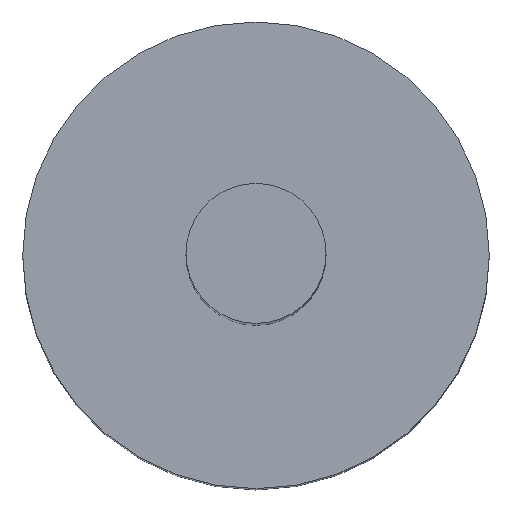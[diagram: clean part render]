
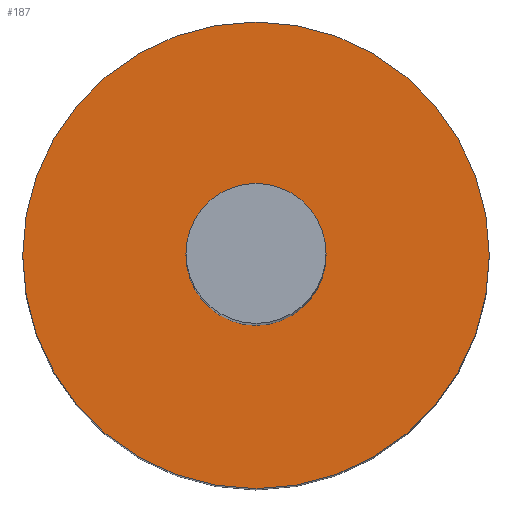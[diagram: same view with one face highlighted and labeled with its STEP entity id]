
A CAD part, top view. The second image highlights one B-rep face of the part: STEP entity #187.
In plain terms, the highlighted planar face has unit normal (0, 0, 1).
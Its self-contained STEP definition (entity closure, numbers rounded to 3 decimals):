
#1 = CARTESIAN_POINT ( 'NONE',  ( 0., 0., -12. ) ) ;
#2 = DIRECTION ( 'NONE',  ( 0., 0., 1. ) ) ;
#3 = DIRECTION ( 'NONE',  ( 1., 0., 0. ) ) ;
#13 = CIRCLE ( 'NONE', #57, 0.75 ) ;
#15 = DIRECTION ( 'NONE',  ( 0., 0., 1. ) ) ;
#18 = ORIENTED_EDGE ( 'NONE', *, *, #211, .T. ) ;
#20 = AXIS2_PLACEMENT_3D ( 'NONE', #165, #167, #24 ) ;
#22 = AXIS2_PLACEMENT_3D ( 'NONE', #320, #15, #219 ) ;
#24 = DIRECTION ( 'NONE',  ( 1., 0., 0. ) ) ;
#30 = CARTESIAN_POINT ( 'NONE',  ( -0.75, 0., -12. ) ) ;
#52 = ORIENTED_EDGE ( 'NONE', *, *, #146, .F. ) ;
#57 = AXIS2_PLACEMENT_3D ( 'NONE', #1, #2, #3 ) ;
#58 = VERTEX_POINT ( 'NONE', #115 ) ;
#60 = AXIS2_PLACEMENT_3D ( 'NONE', #242, #78, #272 ) ;
#62 = CARTESIAN_POINT ( 'NONE',  ( 2.5, 0., -12. ) ) ;
#77 = EDGE_CURVE ( 'NONE', #164, #334, #323, .T. ) ;
#78 = DIRECTION ( 'NONE',  ( 0., 0., 1. ) ) ;
#111 = AXIS2_PLACEMENT_3D ( 'NONE', #135, #130, #133 ) ;
#115 = CARTESIAN_POINT ( 'NONE',  ( -2.5, 0., -12. ) ) ;
#120 = EDGE_CURVE ( 'NONE', #333, #58, #247, .T. ) ;
#127 = CIRCLE ( 'NONE', #20, 2.5 ) ;
#130 = DIRECTION ( 'NONE',  ( 0., 0., 1. ) ) ;
#133 = DIRECTION ( 'NONE',  ( 1., 0., 0. ) ) ;
#135 = CARTESIAN_POINT ( 'NONE',  ( 0., 0., -12. ) ) ;
#146 = EDGE_CURVE ( 'NONE', #334, #164, #13, .T. ) ;
#158 = FACE_OUTER_BOUND ( 'NONE', #163, .T. ) ;
#163 = EDGE_LOOP ( 'NONE', ( #256, #18 ) ) ;
#164 = VERTEX_POINT ( 'NONE', #196 ) ;
#165 = CARTESIAN_POINT ( 'NONE',  ( 0., 0., -12. ) ) ;
#167 = DIRECTION ( 'NONE',  ( 0., 0., 1. ) ) ;
#187 = ADVANCED_FACE ( 'NONE', ( #158, #215 ), #330, .T. ) ;
#196 = CARTESIAN_POINT ( 'NONE',  ( 0.75, 0., -12. ) ) ;
#210 = EDGE_LOOP ( 'NONE', ( #293, #52 ) ) ;
#211 = EDGE_CURVE ( 'NONE', #58, #333, #127, .T. ) ;
#215 = FACE_BOUND ( 'NONE', #210, .T. ) ;
#219 = DIRECTION ( 'NONE',  ( 1., 0., 0. ) ) ;
#242 = CARTESIAN_POINT ( 'NONE',  ( 0., 0., -12. ) ) ;
#247 = CIRCLE ( 'NONE', #60, 2.5 ) ;
#256 = ORIENTED_EDGE ( 'NONE', *, *, #120, .T. ) ;
#272 = DIRECTION ( 'NONE',  ( 1., 0., 0. ) ) ;
#293 = ORIENTED_EDGE ( 'NONE', *, *, #77, .F. ) ;
#320 = CARTESIAN_POINT ( 'NONE',  ( 2.5, 0., -12. ) ) ;
#323 = CIRCLE ( 'NONE', #111, 0.75 ) ;
#330 = PLANE ( 'NONE',  #22 ) ;
#333 = VERTEX_POINT ( 'NONE', #62 ) ;
#334 = VERTEX_POINT ( 'NONE', #30 ) ;
